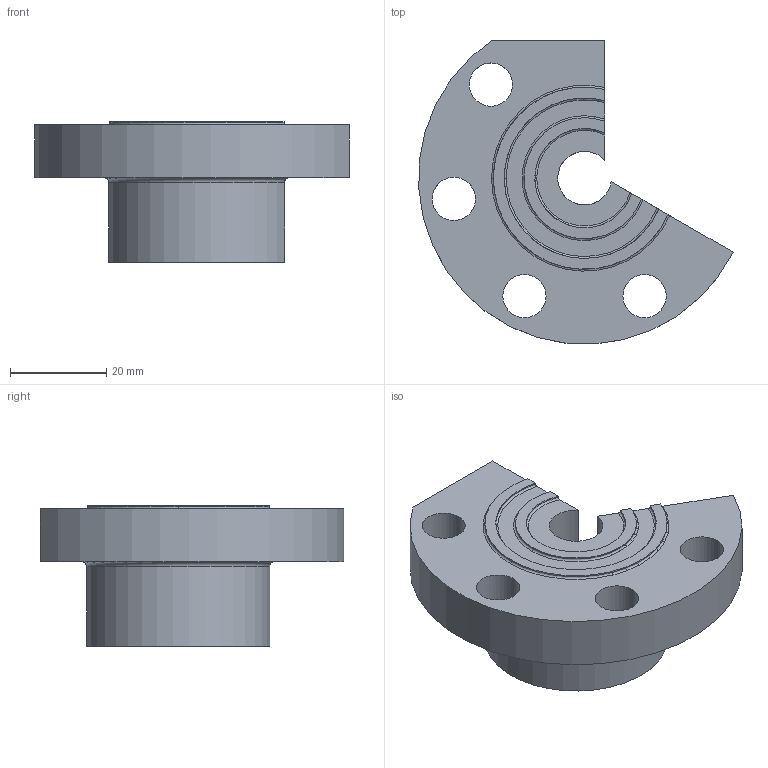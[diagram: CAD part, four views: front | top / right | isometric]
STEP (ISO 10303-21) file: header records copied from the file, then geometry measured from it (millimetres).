
FILE_DESCRIPTION (( 'STEP AP214' ), '1' );
FILE_NAME ('3D-28-05-483-CUT-R.STEP', '2025-03-24T09:27:27', ( '' ), ( '' ), 'SwSTEP 2.0', 'SolidWorks 2018', '' );
FILE_SCHEMA (( 'AUTOMOTIVE_DESIGN' ));
Length unit declared in the file: millimetre
Products named in the file (1): 3D-28-05-483-CUT-R
Bounding box: 65.31 x 63.13 x 29.25 mm (x, y, z)
Volume: 36120.6 mm3; surface area: 11480.5 mm2
Topology: 1 solids, 1 shells, 73 faces, 213 edges, 142 vertices
Faces by surface type: bspline 24, cylinder 23, plane 12, torus 10, cone 4
Entity records: 10320 total; most frequent: CARTESIAN_POINT 8605, ORIENTED_EDGE 426, DIRECTION 270, EDGE_CURVE 213, VERTEX_POINT 142, AXIS2_PLACEMENT_3D 105, EDGE_LOOP 81, ADVANCED_FACE 73
